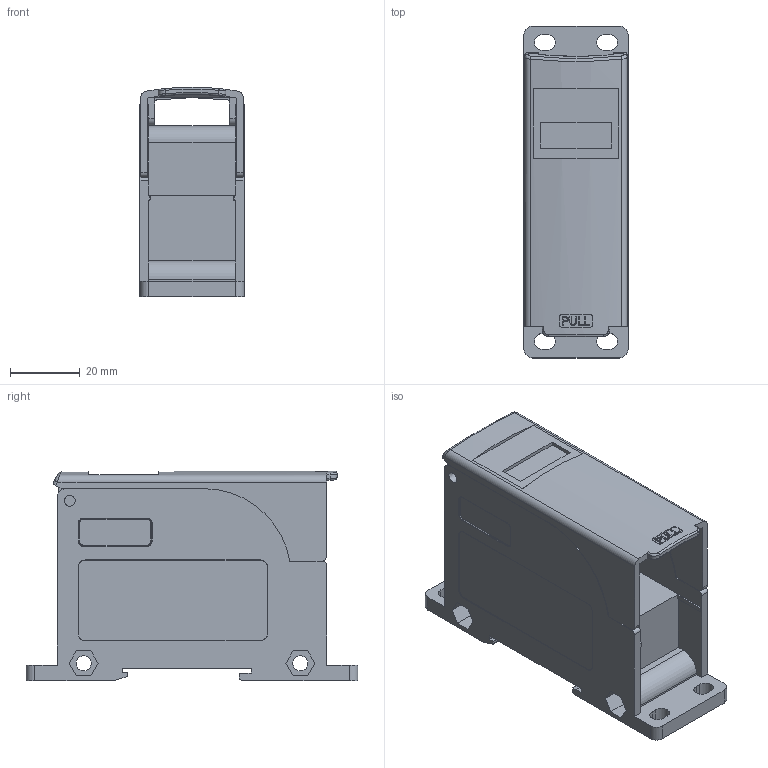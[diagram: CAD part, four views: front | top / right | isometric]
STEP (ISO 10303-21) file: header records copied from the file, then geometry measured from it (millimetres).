
FILE_DESCRIPTION(/* description */ (''),/* implementation_level */ '2;1');
FILE_NAME(/* name */ 'SPS30-M6_M6+2xM4.stp',/* time_stamp */ '2024-08-26T10:37:10+09:00',/* author */ (''),/* organization */ (''),/* preprocessor_version */ 'ST-DEVELOPER v16.7',/* originating_system */ 'SIEMENS PLM Software NX 12.0',/* authorisation */ '');
FILE_SCHEMA (('AP203_CONFIGURATION_CONTROLLED_3D_DESIGN_OF_MECHANICAL_PARTS_AND_ASSEMBLIES_MIM_LF { 1 0 10303 403 2 1 2}'));
Length unit declared in the file: millimetre
Products named in the file (1): wgye0F3891D5srl7
Bounding box: 29.8 x 95 x 59.99 mm (x, y, z)
Volume: 78194.5 mm3; surface area: 27615.2 mm2
Topology: 1 solids, 1 shells, 269 faces, 729 edges, 476 vertices
Faces by surface type: plane 172, cylinder 68, torus 10, bspline 8, extrusion 7, cone 4
Full cylindrical faces by diameter (mm): 3.1 x2, 4.3 x2
Entity records: 9236 total; most frequent: CARTESIAN_POINT 2315, ORIENTED_EDGE 1442, DIRECTION 1369, EDGE_CURVE 721, VECTOR 517, LINE 510, VERTEX_POINT 472, AXIS2_PLACEMENT_3D 426
